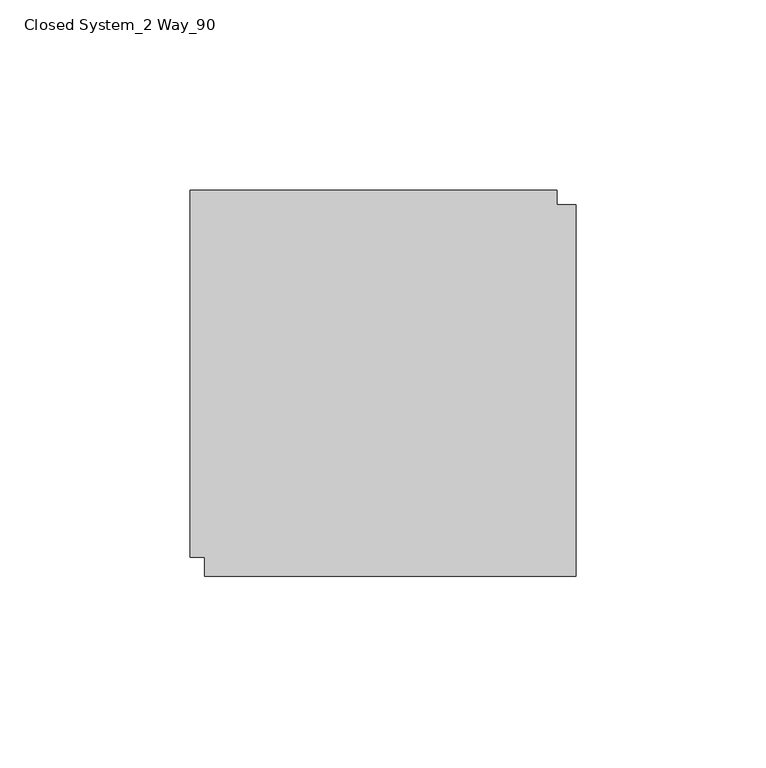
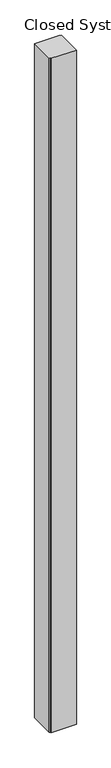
"""IFC4 building model written with IfcOpenShell, lengths in millimetres: furniture geometry, Haworth_Enclose-Accessories-Wall_Module-Intersection : Closed System_2 Way_90."""

from ifc_helpers import new_model, si_unit, origin, origin_with_axes, place, context, project, spatial, polyline, outline, extrude, source, transform, mapped, element, save


def closed_system_2_way_90_dde00ff1(model_context):
    return source(origin(), model_context, "Body", "SweptSolid", [
        extrude(outline(polyline([(29.9771531, -22.2450295), (29.9771531, 74.4019705), (126.6241531, 74.4019705), (126.6241531, 70.4649705), (131.5771531, 70.4649705), (131.5771531, -27.1980295), (33.9141531, -27.1980295), (33.9141531, -22.2450295), (29.9771531, -22.2450295)])), origin_with_axes(), (0.0, 0.0, 1.0), 2743.2),
    ])


if __name__ == "__main__":
    model = new_model("IFC4")
    model_context = context("Model", 3, world=origin())
    ifc_project = project(units=[si_unit("LENGTHUNIT", "METRE", prefix="MILLI")], contexts=[model_context])
    site = spatial("IfcSite", under=ifc_project)
    building = spatial("IfcBuilding", under=site)
    placement = place(None, origin())
    closed_system_2_way_90_shape = closed_system_2_way_90_dde00ff1(model_context)
    element("IfcFurniture", 1, ObjectType="Haworth_Enclose-Accessories-Wall_Module-Intersection : Closed System_2 Way_90", at=placement, inside=building, context=model_context, shape_type="MappedRepresentation", body=[
        mapped(closed_system_2_way_90_shape, transform((0.0, 0.0, 0.0), x_axis=(1.0, 0.0, 0.0), y_axis=(0.0, 1.0, 0.0), z_axis=(0.0, 0.0, 1.0))),
    ])
    save(model, "model.ifc")
